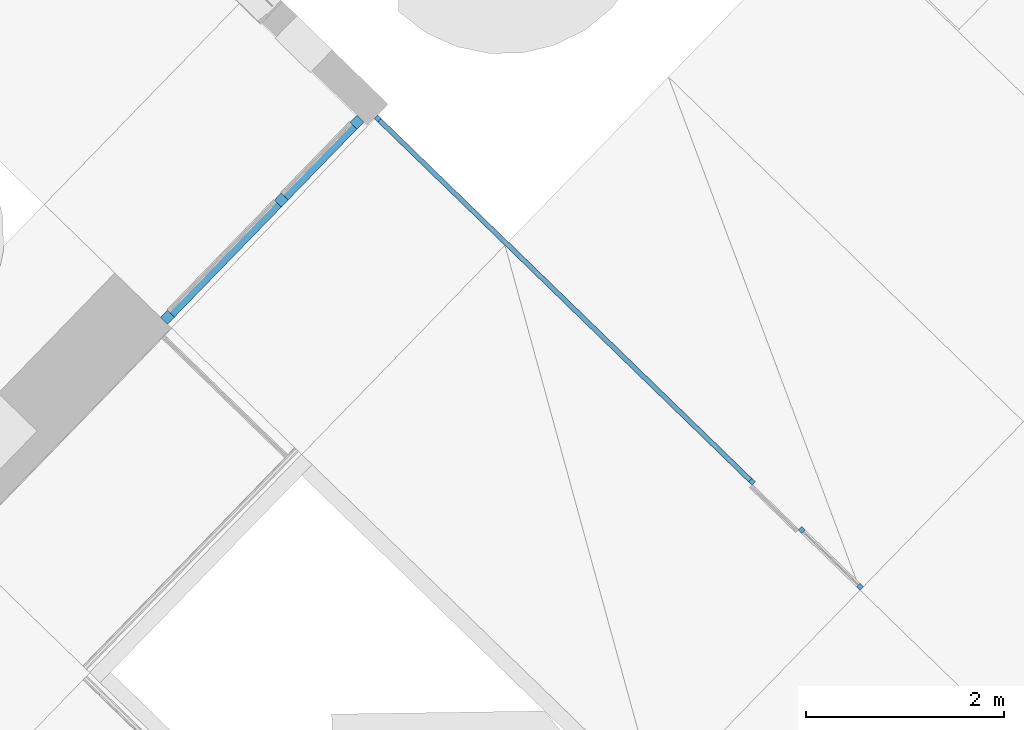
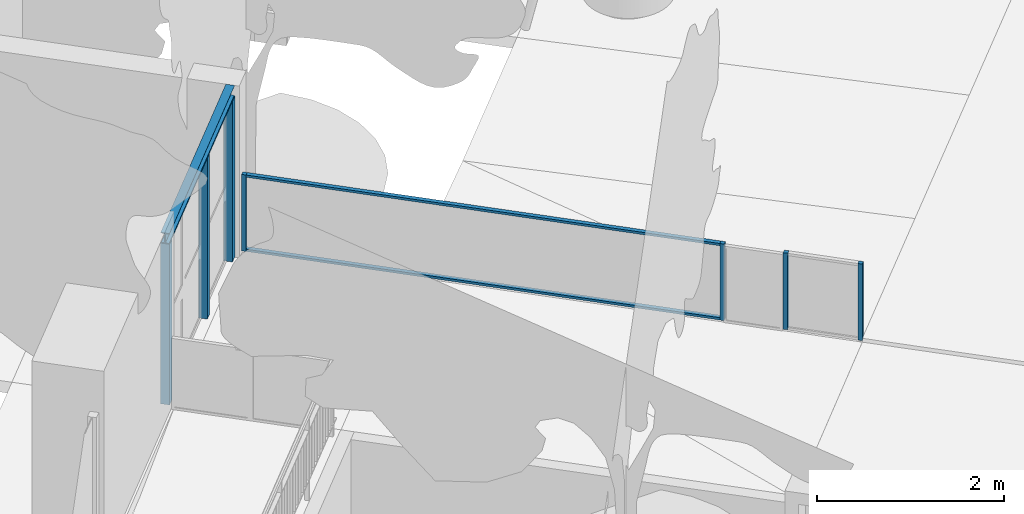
# One storey, part 3 of 37: 9 members, 1 beam, 2 elements without a shape of their own.
"""IFC2X3 building model written with IfcOpenShell, lengths in centimetres."""

from ifc_helpers import new_model, entity, si_unit, converted_unit, derived_unit, direction, frame, frame_2d, origin, origin_2d_with_axis, place, context, subcontext, project, spatial, polyline, circle_curve, parameter, trimmed, segment, composite_curve, rectangle, outline, extrude, source, transform, mapped, material, type_object, type_shapes, element, aggregate, save


model = new_model("IFC2X3")

# Units and contexts
model_context = context("Model", 3, precision=0.001, world=origin(), true_north=direction((0.717475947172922, 0.696583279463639)))
body_context = subcontext(model_context, "Body", "Model", "MODEL_VIEW")
ifc_project = project(units=[si_unit("LENGTHUNIT", "METRE", prefix="CENTI"), si_unit("AREAUNIT", "SQUARE_METRE"), si_unit("VOLUMEUNIT", "CUBIC_METRE"), converted_unit("PLANEANGLEUNIT", "DEGREE", entity("IfcRatioMeasure", 0.0174532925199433), si_unit("PLANEANGLEUNIT", "RADIAN"), dimensions=[0, 0, 0, 0, 0, 0, 0]), si_unit("MASSUNIT", "GRAM", prefix="KILO"), derived_unit("MASSDENSITYUNIT", [(si_unit("MASSUNIT", "GRAM", prefix="KILO"), 1), (si_unit("LENGTHUNIT", "METRE"), -3)]), si_unit("TIMEUNIT", "SECOND"), si_unit("FREQUENCYUNIT", "HERTZ"), si_unit("THERMODYNAMICTEMPERATUREUNIT", "DEGREE_CELSIUS"), derived_unit("THERMALTRANSMITTANCEUNIT", [(si_unit("MASSUNIT", "GRAM", prefix="KILO"), 1), (si_unit("THERMODYNAMICTEMPERATUREUNIT", "KELVIN"), -1), (si_unit("TIMEUNIT", "SECOND"), -3)]), derived_unit("VOLUMETRICFLOWRATEUNIT", [(si_unit("LENGTHUNIT", "METRE"), 3), (si_unit("TIMEUNIT", "SECOND"), -1)]), si_unit("ELECTRICCURRENTUNIT", "AMPERE"), si_unit("ELECTRICVOLTAGEUNIT", "VOLT"), si_unit("POWERUNIT", "WATT"), si_unit("FORCEUNIT", "NEWTON", prefix="KILO"), si_unit("ILLUMINANCEUNIT", "LUX"), si_unit("LUMINOUSFLUXUNIT", "LUMEN"), si_unit("LUMINOUSINTENSITYUNIT", "CANDELA"), derived_unit("USERDEFINED", [(si_unit("MASSUNIT", "GRAM", prefix="KILO"), -1), (si_unit("LENGTHUNIT", "METRE"), -2), (si_unit("TIMEUNIT", "SECOND"), 3), (si_unit("LUMINOUSFLUXUNIT", "LUMEN"), 1)]), derived_unit("LINEARVELOCITYUNIT", [(si_unit("LENGTHUNIT", "METRE"), 1), (si_unit("TIMEUNIT", "SECOND"), -1)]), si_unit("PRESSUREUNIT", "PASCAL"), derived_unit("USERDEFINED", [(si_unit("LENGTHUNIT", "METRE"), -2), (si_unit("MASSUNIT", "GRAM", prefix="KILO"), 1), (si_unit("TIMEUNIT", "SECOND"), -2)])], contexts=[model_context])

# Site, building, storey
site_placement = place(None, frame((0.0, 0.0, 0.0), z_axis=(0.0, 0.0, 1.0), x_axis=(0.696583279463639, 0.717475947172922, 0.0)))
site = spatial("IfcSite", under=ifc_project, at=site_placement, Name="Surface", CompositionType="ELEMENT")
building_placement = place(site_placement, origin())
building = spatial("IfcBuilding", under=site, at=building_placement, CompositionType="ELEMENT")
storey_placement = place(building_placement, origin())
storey = spatial("IfcBuildingStorey", under=building, at=storey_placement, Name="Nivel 0.00", CompositionType="ELEMENT", Elevation=0.0)

# Beam
ifc_material_1 = material(Name="Steel, 45-345")
beam_type = type_object("IfcBeamType", Name="VIGA_DOBLE T-140mm", PredefinedType="BEAM", material=ifc_material_1)
shared_shape = source(origin(), body_context, "Body", "SweptSolid", [
    extrude(outline(composite_curve([segment(polyline([(-7.0, -2.35), (7.0, -2.35)]), True, "CONTINUOUS"), segment(polyline([(7.0, -2.35), (7.0, 2.53)]), True, "CONTINUOUS"), segment(trimmed(circle_curve(frame_2d((7.0, 1.66), x_axis=(0.0, 1.0)), 0.87), [parameter(359.999999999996)], [parameter(89.9999999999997)], True, "PARAMETER"), True, "CONTINUOUS"), segment(polyline([(6.12999999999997, 1.66), (5.57565445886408, -1.83999999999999)]), True, "CONTINUOUS"), segment(polyline([(5.57565445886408, -1.83999999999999), (-5.57565445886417, -1.83999999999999)]), True, "CONTINUOUS"), segment(polyline([(-5.57565445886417, -1.83999999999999), (-6.13000000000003, 1.65999999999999)]), True, "CONTINUOUS"), segment(trimmed(circle_curve(frame_2d((-7.0, 1.65999999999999), x_axis=(0.0, 1.0)), 0.87), [parameter(270.0)], [parameter(359.999999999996)], True, "PARAMETER"), True, "CONTINUOUS"), segment(polyline([(-7.0, 2.52999999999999), (-7.0, -2.35)]), True, "CONTINUOUS")], self_intersect=False)), frame((-142.640584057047, 2.34999999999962, 0.0), z_axis=(1.0, 0.0, 0.0), x_axis=(0.0, 0.0, -1.0)), (0.0, 0.0, 1.0), 285.281168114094),
    extrude(outline(composite_curve([segment(polyline([(-2.35, -7.0), (2.52999999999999, -7.0)]), True, "CONTINUOUS"), segment(trimmed(circle_curve(frame_2d((1.65999999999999, -7.0), x_axis=(1.0, 0.0)), 0.87), [parameter(3.15511024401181e-12)], [parameter(89.9999999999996)], True, "PARAMETER"), True, "CONTINUOUS"), segment(polyline([(1.65999999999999, -6.13000000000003), (-1.83999999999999, -5.57565445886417)]), True, "CONTINUOUS"), segment(polyline([(-1.83999999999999, -5.57565445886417), (-1.83999999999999, 5.57565445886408)]), True, "CONTINUOUS"), segment(polyline([(-1.83999999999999, 5.57565445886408), (1.66, 6.12999999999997)]), True, "CONTINUOUS"), segment(trimmed(circle_curve(frame_2d((1.66, 7.0), x_axis=(1.0, 0.0)), 0.87), [parameter(270.0)], [parameter(3.20599911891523e-12)], True, "PARAMETER"), True, "CONTINUOUS"), segment(polyline([(2.53, 7.0), (-2.35, 7.0)]), True, "CONTINUOUS"), segment(polyline([(-2.35, 7.0), (-2.35, -7.0)]), True, "CONTINUOUS")], self_intersect=False)), frame((-142.640584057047, -2.35000000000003, 0.0), z_axis=(1.0, 0.0, 0.0), x_axis=(0.0, -1.0, 0.0)), (0.0, 0.0, 1.0), 285.281168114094),
])
type_shapes(beam_type, [shared_shape])
beam_placement = place(storey_placement, frame((-1763.11657106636, 772.923167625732, 367.0)))
element("IfcBeam", 1, at=beam_placement, inside=storey, type_object=beam_type, material=ifc_material_1, Name="M_Double C-Channel:VIGA_DOBLE T-140mm", ObjectType="VIGA_DOBLE T-140mm", context=body_context, shape_type="MappedRepresentation", body=[
    mapped(shared_shape, transform((0.0, 0.0, 0.0), scale=1.0)),
])

# Curtain wall, members
curtain_wall_type_1 = type_object("IfcCurtainWallType", Name="Curtain Wall:PORTON_REJA_CIERRE_3", PredefinedType="NOTDEFINED")
curtain_wall_1_placement = place(storey_placement, origin())
curtain_wall_1 = element("IfcCurtainWall", 2, at=curtain_wall_1_placement, inside=storey, type_object=curtain_wall_type_1, Name="Curtain Wall:PORTON_REJA_CIERRE_3", ObjectType="Curtain Wall:PORTON_REJA_CIERRE_3")
ifc_material_2 = material(Name="Aluminum")
member_1_placement = place(curtain_wall_1_placement, origin())
member_1 = element("IfcMember", 3, at=member_1_placement, material=ifc_material_2, Name="Curtain Wall:PORTON_REJA_CIERRE_3", ObjectType="Curtain Wall:PORTON_REJA_CIERRE_3", context=body_context, shape_type="SweptSolid", body=[
    extrude(rectangle(XDim=9.99999999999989, YDim=9.99999999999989, at=frame_2d((-2.16715534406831e-13, 0.0), x_axis=(1.0, 0.0))), frame((-1900.75715512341, 772.923167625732, 150.0), z_axis=(0.0, 0.0, 1.0), x_axis=(-1.0, 0.0, 0.0)), (0.0, 0.0, 1.0), 210.0),
])
member_2_placement = place(curtain_wall_1_placement, origin())
member_2 = element("IfcMember", 4, at=member_2_placement, material=ifc_material_2, Name="Curtain Wall:PORTON_REJA_CIERRE_3", ObjectType="Curtain Wall:PORTON_REJA_CIERRE_3", context=body_context, shape_type="SweptSolid", body=[
    extrude(rectangle(XDim=9.99999999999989, YDim=10.0000000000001, at=frame_2d((2.16715534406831e-13, 0.0), x_axis=(1.0, 0.0))), frame((-1625.48329211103, 772.923167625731, 360.0), z_axis=(0.0, 0.0, -1.0), x_axis=(-1.0, 0.0, 0.0)), (0.0, 0.0, 1.0), 210.0),
])
member_3_placement = place(curtain_wall_1_placement, origin())
member_3 = element("IfcMember", 5, at=member_3_placement, material=ifc_material_2, Name="Curtain Wall:PORTON_REJA_CIERRE_3", ObjectType="Curtain Wall:PORTON_REJA_CIERRE_3", context=body_context, shape_type="SweptSolid", body=[
    extrude(rectangle(XDim=9.99999999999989, YDim=10.0000000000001, at=frame_2d((-2.16715534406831e-13, 0.0), x_axis=(1.0, 0.0))), frame((-1735.45998704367, 772.923167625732, 150.0), z_axis=(0.0, 0.0, 1.0), x_axis=(-1.0, 0.0, 0.0)), (0.0, 0.0, 1.0), 210.0),
])
aggregate(curtain_wall_1, [member_1, member_2, member_3])

curtain_wall_type_2 = type_object("IfcCurtainWallType", Name="Curtain Wall:REJA_BAJA_100mm", PredefinedType="NOTDEFINED")
curtain_wall_2_placement = place(storey_placement, origin())
curtain_wall_2 = element("IfcCurtainWall", 6, at=curtain_wall_2_placement, inside=storey, type_object=curtain_wall_type_2, Name="Curtain Wall:REJA_BAJA_100mm", ObjectType="Curtain Wall:REJA_BAJA_100mm")
member_4_placement = place(curtain_wall_2_placement, origin())
member_4 = element("IfcMember", 7, at=member_4_placement, material=ifc_material_2, Name="Curtain Wall:REJA_BAJA_100mm", ObjectType="Curtain Wall:REJA_BAJA_100mm", context=body_context, shape_type="SweptSolid", body=[
    extrude(rectangle(XDim=3.00000000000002, YDim=5.00000000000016, at=frame_2d((2.70894418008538e-14, 0.0), x_axis=(1.0, 0.0))), frame((-1608.1443741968, 757.923167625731, 250.5), z_axis=(0.0, -1.0, 0.0), x_axis=(0.0, 0.0, -1.0)), (0.0, 0.0, 1.0), 523.041224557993),
])
member_5_placement = place(curtain_wall_2_placement, origin())
member_5 = element("IfcMember", 8, at=member_5_placement, material=ifc_material_2, Name="Curtain Wall:REJA_BAJA_100mm", ObjectType="Curtain Wall:REJA_BAJA_100mm", context=body_context, shape_type="SweptSolid", body=[
    extrude(rectangle(XDim=2.99999999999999, YDim=5.00000000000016, at=frame_2d((1.35447209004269e-14, 0.0), x_axis=(1.0, 0.0))), frame((-1608.1443741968, 234.881943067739, 153.5), z_axis=(0.0, 1.0, 0.0), x_axis=(0.0, 0.0, -1.0)), (0.0, 0.0, 1.0), 523.041224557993),
])
member_6_placement = place(curtain_wall_2_placement, origin())
member_6 = element("IfcMember", 9, at=member_6_placement, material=ifc_material_2, Name="Curtain Wall:REJA_BAJA_100mm", ObjectType="Curtain Wall:REJA_BAJA_100mm", context=body_context, shape_type="SweptSolid", body=[
    extrude(rectangle(XDim=5.00000000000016, YDim=4.99999999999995, at=origin_2d_with_axis()), frame((-1608.1443741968, 760.423167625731, 152.0), z_axis=(0.0, 0.0, 1.0), x_axis=(-1.0, 0.0, 0.0)), (0.0, 0.0, 1.0), 100.0),
])
member_7_placement = place(curtain_wall_2_placement, origin())
member_7 = element("IfcMember", 10, at=member_7_placement, material=ifc_material_2, Name="Curtain Wall:REJA_BAJA_100mm", ObjectType="Curtain Wall:REJA_BAJA_100mm", context=body_context, shape_type="SweptSolid", body=[
    extrude(rectangle(XDim=5.00000000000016, YDim=5.0, at=origin_2d_with_axis()), frame((-1608.1443741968, 80.0494939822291, 252.0), z_axis=(0.0, 0.0, -1.0), x_axis=(-1.0, 0.0, 0.0)), (0.0, 0.0, 1.0), 100.0),
])
member_8_placement = place(curtain_wall_2_placement, origin())
member_8 = element("IfcMember", 11, at=member_8_placement, material=ifc_material_2, Name="Curtain Wall:REJA_BAJA_100mm", ObjectType="Curtain Wall:REJA_BAJA_100mm", context=body_context, shape_type="SweptSolid", body=[
    extrude(rectangle(XDim=5.00000000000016, YDim=5.0, at=origin_2d_with_axis()), frame((-1608.1443741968, 162.403218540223, 152.0), z_axis=(0.0, 0.0, 1.0), x_axis=(-1.0, 0.0, 0.0)), (0.0, 0.0, 1.0), 100.0),
])
member_9_placement = place(curtain_wall_2_placement, origin())
member_9 = element("IfcMember", 12, at=member_9_placement, material=ifc_material_2, Name="Curtain Wall:REJA_BAJA_100mm", ObjectType="Curtain Wall:REJA_BAJA_100mm", context=body_context, shape_type="SweptSolid", body=[
    extrude(rectangle(XDim=5.00000000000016, YDim=5.0, at=origin_2d_with_axis()), frame((-1608.1443741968, 232.381943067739, 152.0), z_axis=(0.0, 0.0, 1.0), x_axis=(-1.0, 0.0, 0.0)), (0.0, 0.0, 1.0), 100.0),
])
aggregate(curtain_wall_2, [member_4, member_5, member_6, member_7, member_8, member_9])

save(model, "model.ifc")
